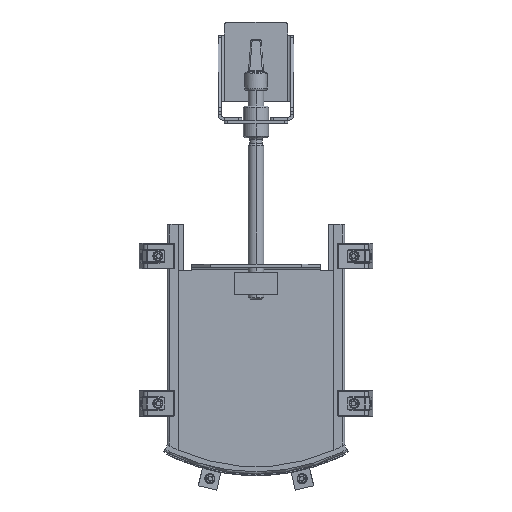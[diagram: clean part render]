
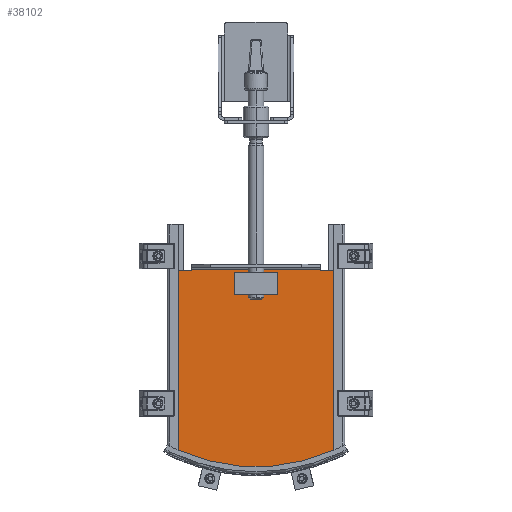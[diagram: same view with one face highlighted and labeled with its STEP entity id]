
A CAD part, top view. The second image highlights one B-rep face of the part: STEP entity #38102.
In plain terms, the highlighted planar face has unit normal (0, 0, 1).
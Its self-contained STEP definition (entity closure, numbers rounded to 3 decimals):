
#226 = EDGE_CURVE ( 'NONE', #18222, #49179, #16504, .T. ) ;
#304 = EDGE_CURVE ( 'NONE', #17332, #54888, #56568, .T. ) ;
#888 = EDGE_LOOP ( 'NONE', ( #49541, #41822, #44449, #29377 ) ) ;
#1295 = VERTEX_POINT ( 'NONE', #54371 ) ;
#1469 = VERTEX_POINT ( 'NONE', #11993 ) ;
#1601 = CARTESIAN_POINT ( 'NONE',  ( -104., 312., 33. ) ) ;
#2583 = CARTESIAN_POINT ( 'NONE',  ( -34., 307.5, 33. ) ) ;
#2959 = CARTESIAN_POINT ( 'NONE',  ( -130., 312., 33. ) ) ;
#3786 = CARTESIAN_POINT ( 'NONE',  ( -122.995, 26.372, 33. ) ) ;
#5295 = VECTOR ( 'NONE', #21768, 1000. ) ;
#8494 = VECTOR ( 'NONE', #55222, 1000. ) ;
#8595 = DIRECTION ( 'NONE',  ( 0., 0., 1. ) ) ;
#9869 = DIRECTION ( 'NONE',  ( 0., 0., -1. ) ) ;
#10270 = DIRECTION ( 'NONE',  ( 0., 0., -1. ) ) ;
#11263 = CARTESIAN_POINT ( 'NONE',  ( -34., 272.5, 33. ) ) ;
#11993 = CARTESIAN_POINT ( 'NONE',  ( -34., 272.5, 33. ) ) ;
#12043 = CARTESIAN_POINT ( 'NONE',  ( 123.172, 310., 33. ) ) ;
#15287 = AXIS2_PLACEMENT_3D ( 'NONE', #1601, #9869, #50204 ) ;
#15751 = LINE ( 'NONE', #36928, #8494 ) ;
#15959 = CARTESIAN_POINT ( 'NONE',  ( 34., 272.5, 33. ) ) ;
#16504 = CIRCLE ( 'NONE', #49416, 300. ) ;
#17332 = VERTEX_POINT ( 'NONE', #39752 ) ;
#17539 = CARTESIAN_POINT ( 'NONE',  ( 122.995, 31.851, 33. ) ) ;
#18222 = VERTEX_POINT ( 'NONE', #3786 ) ;
#18257 = DIRECTION ( 'NONE',  ( -1., 0., 0. ) ) ;
#18341 = VERTEX_POINT ( 'NONE', #2583 ) ;
#19457 = DIRECTION ( 'NONE',  ( 0., -1., 0. ) ) ;
#19868 = EDGE_CURVE ( 'NONE', #49456, #39920, #57485, .T. ) ;
#20051 = EDGE_CURVE ( 'NONE', #1295, #49179, #57905, .T. ) ;
#20201 = EDGE_CURVE ( 'NONE', #29986, #40581, #15751, .T. ) ;
#20261 = VECTOR ( 'NONE', #35552, 1000. ) ;
#20609 = FACE_OUTER_BOUND ( 'NONE', #36428, .T. ) ;
#20676 = AXIS2_PLACEMENT_3D ( 'NONE', #57171, #8595, #25627 ) ;
#20892 = DIRECTION ( 'NONE',  ( 0., -1., 0. ) ) ;
#21164 = ORIENTED_EDGE ( 'NONE', *, *, #48382, .T. ) ;
#21224 = CARTESIAN_POINT ( 'NONE',  ( -123.172, 310., 33. ) ) ;
#21240 = CARTESIAN_POINT ( 'NONE',  ( 0., 300., 33. ) ) ;
#21472 = CARTESIAN_POINT ( 'NONE',  ( -34., 307.5, 33. ) ) ;
#21768 = DIRECTION ( 'NONE',  ( 1., 0., 0. ) ) ;
#22120 = DIRECTION ( 'NONE',  ( 1., 0., 0. ) ) ;
#22231 = DIRECTION ( 'NONE',  ( 0., -1., 0. ) ) ;
#22437 = EDGE_CURVE ( 'NONE', #1295, #29027, #48500, .T. ) ;
#22794 = VECTOR ( 'NONE', #56763, 1000. ) ;
#25627 = DIRECTION ( 'NONE',  ( 1., 0., 0. ) ) ;
#25919 = DIRECTION ( 'NONE',  ( -1., 0., 0. ) ) ;
#26503 = EDGE_CURVE ( 'NONE', #1469, #29986, #46884, .T. ) ;
#26643 = CIRCLE ( 'NONE', #38887, 2. ) ;
#29027 = VERTEX_POINT ( 'NONE', #50607 ) ;
#29377 = ORIENTED_EDGE ( 'NONE', *, *, #20201, .F. ) ;
#29650 = ORIENTED_EDGE ( 'NONE', *, *, #33940, .T. ) ;
#29875 = CARTESIAN_POINT ( 'NONE',  ( -122.995, 310., 33. ) ) ;
#29986 = VERTEX_POINT ( 'NONE', #15959 ) ;
#30064 = EDGE_CURVE ( 'NONE', #39920, #18222, #51301, .T. ) ;
#31454 = ORIENTED_EDGE ( 'NONE', *, *, #304, .F. ) ;
#33088 = VECTOR ( 'NONE', #22231, 1000. ) ;
#33251 = VECTOR ( 'NONE', #18257, 1000. ) ;
#33329 = EDGE_CURVE ( 'NONE', #18341, #1469, #48320, .T. ) ;
#33765 = ORIENTED_EDGE ( 'NONE', *, *, #20051, .F. ) ;
#33940 = EDGE_CURVE ( 'NONE', #17332, #49456, #35862, .T. ) ;
#34680 = ORIENTED_EDGE ( 'NONE', *, *, #226, .T. ) ;
#34981 = CARTESIAN_POINT ( 'NONE',  ( -104., 310., 33. ) ) ;
#35314 = DIRECTION ( 'NONE',  ( 0., 0., 1. ) ) ;
#35329 = CARTESIAN_POINT ( 'NONE',  ( 122.995, 26.372, 33. ) ) ;
#35552 = DIRECTION ( 'NONE',  ( 1., 0., 0. ) ) ;
#35862 = CIRCLE ( 'NONE', #15287, 2. ) ;
#36155 = ORIENTED_EDGE ( 'NONE', *, *, #22437, .T. ) ;
#36428 = EDGE_LOOP ( 'NONE', ( #54172, #46297, #34680, #33765, #36155, #21164, #31454, #29650 ) ) ;
#36928 = CARTESIAN_POINT ( 'NONE',  ( 34., 307.5, 33. ) ) ;
#37475 = CARTESIAN_POINT ( 'NONE',  ( 102., 312., 33. ) ) ;
#38102 = ADVANCED_FACE ( 'NONE', ( #20609, #47787 ), #38575, .T. ) ;
#38575 = PLANE ( 'NONE',  #20676 ) ;
#38887 = AXIS2_PLACEMENT_3D ( 'NONE', #45281, #10270, #54424 ) ;
#39752 = CARTESIAN_POINT ( 'NONE',  ( -102., 312., 33. ) ) ;
#39920 = VERTEX_POINT ( 'NONE', #29875 ) ;
#40581 = VERTEX_POINT ( 'NONE', #53762 ) ;
#41559 = CARTESIAN_POINT ( 'NONE',  ( -122.995, -36.687, 33. ) ) ;
#41822 = ORIENTED_EDGE ( 'NONE', *, *, #33329, .F. ) ;
#43072 = VECTOR ( 'NONE', #19457, 1000. ) ;
#44449 = ORIENTED_EDGE ( 'NONE', *, *, #55745, .F. ) ;
#45281 = CARTESIAN_POINT ( 'NONE',  ( 104., 312., 33. ) ) ;
#46297 = ORIENTED_EDGE ( 'NONE', *, *, #30064, .T. ) ;
#46884 = LINE ( 'NONE', #11263, #20261 ) ;
#47348 = VECTOR ( 'NONE', #20892, 1000. ) ;
#47787 = FACE_BOUND ( 'NONE', #888, .T. ) ;
#48320 = LINE ( 'NONE', #21472, #47348 ) ;
#48382 = EDGE_CURVE ( 'NONE', #29027, #54888, #26643, .T. ) ;
#48500 = LINE ( 'NONE', #12043, #22794 ) ;
#49179 = VERTEX_POINT ( 'NONE', #35329 ) ;
#49416 = AXIS2_PLACEMENT_3D ( 'NONE', #21240, #35314, #22120 ) ;
#49456 = VERTEX_POINT ( 'NONE', #34981 ) ;
#49541 = ORIENTED_EDGE ( 'NONE', *, *, #26503, .F. ) ;
#50204 = DIRECTION ( 'NONE',  ( 1., 0., 0. ) ) ;
#50607 = CARTESIAN_POINT ( 'NONE',  ( 104., 310., 33. ) ) ;
#51301 = LINE ( 'NONE', #41559, #43072 ) ;
#52861 = VECTOR ( 'NONE', #25919, 1000. ) ;
#53762 = CARTESIAN_POINT ( 'NONE',  ( 34., 307.5, 33. ) ) ;
#54172 = ORIENTED_EDGE ( 'NONE', *, *, #19868, .T. ) ;
#54371 = CARTESIAN_POINT ( 'NONE',  ( 122.995, 310., 33. ) ) ;
#54424 = DIRECTION ( 'NONE',  ( 1., 0., 0. ) ) ;
#54497 = LINE ( 'NONE', #57758, #33251 ) ;
#54888 = VERTEX_POINT ( 'NONE', #37475 ) ;
#55222 = DIRECTION ( 'NONE',  ( 0., 1., 0. ) ) ;
#55745 = EDGE_CURVE ( 'NONE', #40581, #18341, #54497, .T. ) ;
#56568 = LINE ( 'NONE', #2959, #5295 ) ;
#56763 = DIRECTION ( 'NONE',  ( -1., 0., 0. ) ) ;
#57171 = CARTESIAN_POINT ( 'NONE',  ( -130., 31.851, 33. ) ) ;
#57485 = LINE ( 'NONE', #21224, #52861 ) ;
#57758 = CARTESIAN_POINT ( 'NONE',  ( -34., 307.5, 33. ) ) ;
#57905 = LINE ( 'NONE', #17539, #33088 ) ;
